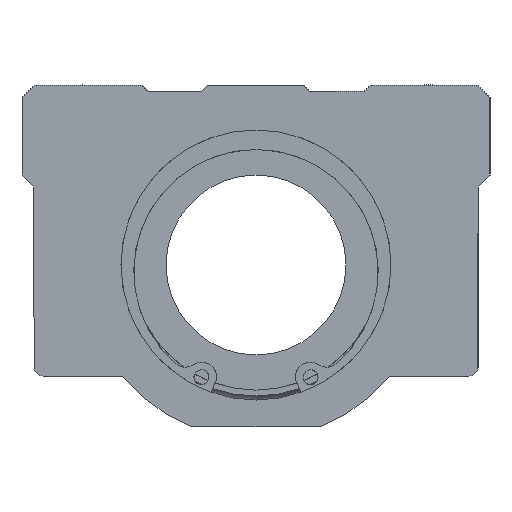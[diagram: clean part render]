
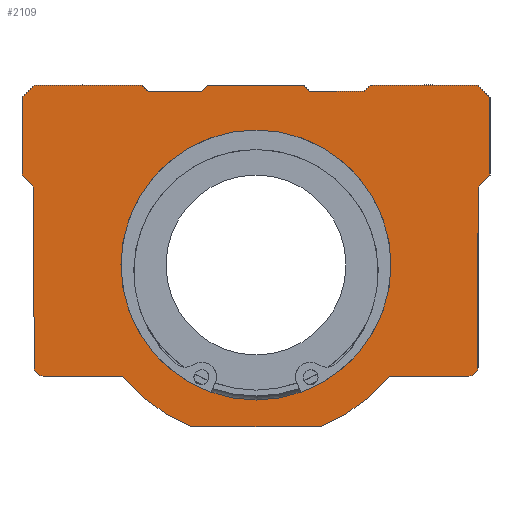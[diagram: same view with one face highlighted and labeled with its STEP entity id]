
A CAD part, left-side view. The second image highlights one B-rep face of the part: STEP entity #2109.
In plain terms, the highlighted planar face has unit normal (-1, 0, 0).
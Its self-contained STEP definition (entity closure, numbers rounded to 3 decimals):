
#1512=CARTESIAN_POINT('',(0.0,9.,29.));
#1513=VERTEX_POINT('',#1512);
#1514=CARTESIAN_POINT('',(0.0,8.,30.));
#1515=VERTEX_POINT('',#1514);
#1516=CARTESIAN_POINT('',(0.0,9.,29.));
#1517=DIRECTION('',(0.0,-0.707,0.707));
#1518=VECTOR('',#1517,1.414);
#1519=LINE('',#1516,#1518);
#1520=EDGE_CURVE('',#1513,#1515,#1519,.T.);
#1562=CARTESIAN_POINT('',(0.0,-8.,30.0));
#1563=VERTEX_POINT('',#1562);
#1570=CARTESIAN_POINT('',(0.0,-9.,29.));
#1571=VERTEX_POINT('',#1570);
#1572=CARTESIAN_POINT('',(0.0,-8.,30.0));
#1573=DIRECTION('',(0.0,-0.707,-0.707));
#1574=VECTOR('',#1573,1.414);
#1575=LINE('',#1572,#1574);
#1576=EDGE_CURVE('',#1563,#1571,#1575,.T.);
#1599=CARTESIAN_POINT('',(0.0,8.,30.));
#1600=DIRECTION('',(0.0,-1.0,0.0));
#1601=VECTOR('',#1600,16.);
#1602=LINE('',#1599,#1601);
#1603=EDGE_CURVE('',#1515,#1563,#1602,.T.);
#1623=CARTESIAN_POINT('',(0.0,18.0,29.));
#1624=VERTEX_POINT('',#1623);
#1631=CARTESIAN_POINT('',(0.0,18.0,29.));
#1632=DIRECTION('',(0.0,-1.0,0.0));
#1633=VECTOR('',#1632,9.);
#1634=LINE('',#1631,#1633);
#1635=EDGE_CURVE('',#1624,#1513,#1634,.T.);
#1646=CARTESIAN_POINT('',(0.0,-18.0,29.));
#1647=VERTEX_POINT('',#1646);
#1648=CARTESIAN_POINT('',(0.0,-9.,29.));
#1649=DIRECTION('',(0.0,-1.0,0.0));
#1650=VECTOR('',#1649,9.);
#1651=LINE('',#1648,#1650);
#1652=EDGE_CURVE('',#1571,#1647,#1651,.T.);
#1687=CARTESIAN_POINT('',(0.0,35.5,-18.5));
#1688=VERTEX_POINT('',#1687);
#1695=CARTESIAN_POINT('',(0.0,37.,-17.));
#1696=VERTEX_POINT('',#1695);
#1697=CARTESIAN_POINT('',(0.0,35.5,-17.));
#1698=DIRECTION('',(1.0,0.0,0.0));
#1699=DIRECTION('',(0.0,0.707,-0.707));
#1700=AXIS2_PLACEMENT_3D('',#1697,#1698,#1699);
#1701=CIRCLE('',#1700,1.5);
#1702=EDGE_CURVE('',#1688,#1696,#1701,.T.);
#1727=CARTESIAN_POINT('',(0.0,22.333,-18.5));
#1728=VERTEX_POINT('',#1727);
#1735=CARTESIAN_POINT('',(0.0,22.333,-18.5));
#1736=DIRECTION('',(0.0,1.0,0.0));
#1737=VECTOR('',#1736,13.167);
#1738=LINE('',#1735,#1737);
#1739=EDGE_CURVE('',#1728,#1688,#1738,.T.);
#1933=CARTESIAN_POINT('',(0.0,-37.,-17.));
#1934=VERTEX_POINT('',#1933);
#1941=CARTESIAN_POINT('',(0.0,-35.5,-18.5));
#1942=VERTEX_POINT('',#1941);
#1943=CARTESIAN_POINT('',(0.0,-35.5,-17.));
#1944=DIRECTION('',(1.,0.0,0.0));
#1945=DIRECTION('',(0.0,-0.707,-0.707));
#1946=AXIS2_PLACEMENT_3D('',#1943,#1944,#1945);
#1947=CIRCLE('',#1946,1.5);
#1948=EDGE_CURVE('',#1934,#1942,#1947,.T.);
#1959=CARTESIAN_POINT('',(0.0,0.,3.997));
#1960=DIRECTION('',(1.0,0.0,0.0));
#1961=DIRECTION('',(0.0,0.0,-1.0));
#1962=AXIS2_PLACEMENT_3D('',#1959,#1960,#1961);
#1963=PLANE('',#1962);
#1964=ORIENTED_EDGE('',*,*,#1702,.F.);
#1965=ORIENTED_EDGE('',*,*,#1739,.F.);
#1966=CARTESIAN_POINT('',(0.0,10.583,-27.0));
#1967=VERTEX_POINT('',#1966);
#1968=CARTESIAN_POINT('',(0.0,0.0,0.0));
#1969=DIRECTION('',(1.,0.0,0.0));
#1970=DIRECTION('',(0.0,0.365,-0.931));
#1971=AXIS2_PLACEMENT_3D('',#1968,#1969,#1970);
#1972=CIRCLE('',#1971,29.0);
#1973=EDGE_CURVE('',#1967,#1728,#1972,.T.);
#1974=ORIENTED_EDGE('',*,*,#1973,.F.);
#1975=CARTESIAN_POINT('',(0.0,-10.583,-27.0));
#1976=VERTEX_POINT('',#1975);
#1977=CARTESIAN_POINT('',(0.0,-10.583,-27.0));
#1978=DIRECTION('',(0.0,1.0,0.0));
#1979=VECTOR('',#1978,21.166);
#1980=LINE('',#1977,#1979);
#1981=EDGE_CURVE('',#1976,#1967,#1980,.T.);
#1982=ORIENTED_EDGE('',*,*,#1981,.F.);
#1983=CARTESIAN_POINT('',(0.0,-22.333,-18.5));
#1984=VERTEX_POINT('',#1983);
#1985=CARTESIAN_POINT('',(0.0,0.0,0.0));
#1986=DIRECTION('',(1.,0.0,0.0));
#1987=DIRECTION('',(0.0,0.365,-0.931));
#1988=AXIS2_PLACEMENT_3D('',#1985,#1986,#1987);
#1989=CIRCLE('',#1988,29.0);
#1990=EDGE_CURVE('',#1984,#1976,#1989,.T.);
#1991=ORIENTED_EDGE('',*,*,#1990,.F.);
#1992=CARTESIAN_POINT('',(0.0,-35.5,-18.5));
#1993=DIRECTION('',(0.0,1.0,0.0));
#1994=VECTOR('',#1993,13.167);
#1995=LINE('',#1992,#1994);
#1996=EDGE_CURVE('',#1942,#1984,#1995,.T.);
#1997=ORIENTED_EDGE('',*,*,#1996,.F.);
#1998=ORIENTED_EDGE('',*,*,#1948,.F.);
#1999=CARTESIAN_POINT('',(0.0,-37.,13.));
#2000=VERTEX_POINT('',#1999);
#2001=CARTESIAN_POINT('',(0.0,-37.,13.));
#2002=DIRECTION('',(0.0,0.0,-1.0));
#2003=VECTOR('',#2002,30.);
#2004=LINE('',#2001,#2003);
#2005=EDGE_CURVE('',#2000,#1934,#2004,.T.);
#2006=ORIENTED_EDGE('',*,*,#2005,.F.);
#2007=CARTESIAN_POINT('',(0.0,-39.0,15.));
#2008=VERTEX_POINT('',#2007);
#2009=CARTESIAN_POINT('',(0.0,-39.0,15.));
#2010=DIRECTION('',(0.0,0.707,-0.707));
#2011=VECTOR('',#2010,2.828);
#2012=LINE('',#2009,#2011);
#2013=EDGE_CURVE('',#2008,#2000,#2012,.T.);
#2014=ORIENTED_EDGE('',*,*,#2013,.F.);
#2015=CARTESIAN_POINT('',(0.0,-39.0,28.));
#2016=VERTEX_POINT('',#2015);
#2017=CARTESIAN_POINT('',(0.0,-39.0,28.));
#2018=DIRECTION('',(0.0,0.0,-1.0));
#2019=VECTOR('',#2018,13.);
#2020=LINE('',#2017,#2019);
#2021=EDGE_CURVE('',#2016,#2008,#2020,.T.);
#2022=ORIENTED_EDGE('',*,*,#2021,.F.);
#2023=CARTESIAN_POINT('',(0.0,-37.0,30.));
#2024=VERTEX_POINT('',#2023);
#2025=CARTESIAN_POINT('',(0.0,-37.0,30.));
#2026=DIRECTION('',(0.0,-0.707,-0.707));
#2027=VECTOR('',#2026,2.828);
#2028=LINE('',#2025,#2027);
#2029=EDGE_CURVE('',#2024,#2016,#2028,.T.);
#2030=ORIENTED_EDGE('',*,*,#2029,.F.);
#2031=CARTESIAN_POINT('',(0.0,-19.0,30.));
#2032=VERTEX_POINT('',#2031);
#2033=CARTESIAN_POINT('',(0.0,-19.0,30.));
#2034=DIRECTION('',(0.0,-1.0,0.0));
#2035=VECTOR('',#2034,18.0);
#2036=LINE('',#2033,#2035);
#2037=EDGE_CURVE('',#2032,#2024,#2036,.T.);
#2038=ORIENTED_EDGE('',*,*,#2037,.F.);
#2039=CARTESIAN_POINT('',(0.0,-18.0,29.));
#2040=DIRECTION('',(0.0,-0.707,0.707));
#2041=VECTOR('',#2040,1.414);
#2042=LINE('',#2039,#2041);
#2043=EDGE_CURVE('',#1647,#2032,#2042,.T.);
#2044=ORIENTED_EDGE('',*,*,#2043,.F.);
#2045=ORIENTED_EDGE('',*,*,#1652,.F.);
#2046=ORIENTED_EDGE('',*,*,#1576,.F.);
#2047=ORIENTED_EDGE('',*,*,#1603,.F.);
#2048=ORIENTED_EDGE('',*,*,#1520,.F.);
#2049=ORIENTED_EDGE('',*,*,#1635,.F.);
#2050=CARTESIAN_POINT('',(0.0,19.0,30.));
#2051=VERTEX_POINT('',#2050);
#2052=CARTESIAN_POINT('',(0.0,19.0,30.));
#2053=DIRECTION('',(0.0,-0.707,-0.707));
#2054=VECTOR('',#2053,1.414);
#2055=LINE('',#2052,#2054);
#2056=EDGE_CURVE('',#2051,#1624,#2055,.T.);
#2057=ORIENTED_EDGE('',*,*,#2056,.F.);
#2058=CARTESIAN_POINT('',(0.0,37.0,30.));
#2059=VERTEX_POINT('',#2058);
#2060=CARTESIAN_POINT('',(0.0,37.0,30.));
#2061=DIRECTION('',(0.0,-1.0,0.0));
#2062=VECTOR('',#2061,18.0);
#2063=LINE('',#2060,#2062);
#2064=EDGE_CURVE('',#2059,#2051,#2063,.T.);
#2065=ORIENTED_EDGE('',*,*,#2064,.F.);
#2066=CARTESIAN_POINT('',(0.0,39.0,28.));
#2067=VERTEX_POINT('',#2066);
#2068=CARTESIAN_POINT('',(0.0,39.0,28.));
#2069=DIRECTION('',(0.0,-0.707,0.707));
#2070=VECTOR('',#2069,2.828);
#2071=LINE('',#2068,#2070);
#2072=EDGE_CURVE('',#2067,#2059,#2071,.T.);
#2073=ORIENTED_EDGE('',*,*,#2072,.F.);
#2074=CARTESIAN_POINT('',(0.0,39.0,15.));
#2075=VERTEX_POINT('',#2074);
#2076=CARTESIAN_POINT('',(0.0,39.0,15.));
#2077=DIRECTION('',(0.0,0.0,1.0));
#2078=VECTOR('',#2077,13.);
#2079=LINE('',#2076,#2078);
#2080=EDGE_CURVE('',#2075,#2067,#2079,.T.);
#2081=ORIENTED_EDGE('',*,*,#2080,.F.);
#2082=CARTESIAN_POINT('',(0.0,37.,13.));
#2083=VERTEX_POINT('',#2082);
#2084=CARTESIAN_POINT('',(0.0,37.,13.));
#2085=DIRECTION('',(0.0,0.707,0.707));
#2086=VECTOR('',#2085,2.828);
#2087=LINE('',#2084,#2086);
#2088=EDGE_CURVE('',#2083,#2075,#2087,.T.);
#2089=ORIENTED_EDGE('',*,*,#2088,.F.);
#2090=CARTESIAN_POINT('',(0.0,37.,-17.));
#2091=DIRECTION('',(0.0,0.0,1.0));
#2092=VECTOR('',#2091,30.);
#2093=LINE('',#2090,#2092);
#2094=EDGE_CURVE('',#1696,#2083,#2093,.T.);
#2095=ORIENTED_EDGE('',*,*,#2094,.F.);
#2096=EDGE_LOOP('',(#1964,#1965,#1974,#1982,#1991,#1997,#1998,#2006,#2014,#2022,#2030,#2038,#2044,#2045,#2046,#2047,#2048,#2049,#2057,#2065,#2073,#2081,#2089,#2095));
#2097=FACE_OUTER_BOUND('',#2096,.T.);
#2098=CARTESIAN_POINT('',(0.0,22.5,0.));
#2099=VERTEX_POINT('',#2098);
#2100=CARTESIAN_POINT('',(0.0,0.0,0.0));
#2101=DIRECTION('',(1.0,0.0,0.0));
#2102=DIRECTION('',(0.0,-1.0,0.0));
#2103=AXIS2_PLACEMENT_3D('',#2100,#2101,#2102);
#2104=CIRCLE('',#2103,22.5);
#2105=EDGE_CURVE('',#2099,#2099,#2104,.T.);
#2106=ORIENTED_EDGE('',*,*,#2105,.T.);
#2107=EDGE_LOOP('',(#2106));
#2108=FACE_BOUND('',#2107,.T.);
#2109=ADVANCED_FACE('',(#2097,#2108),#1963,.F.);
